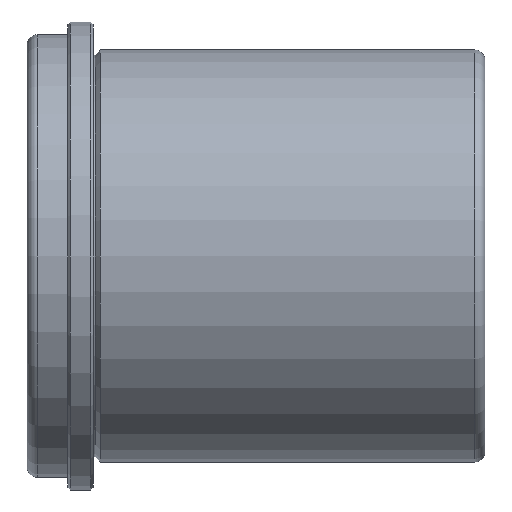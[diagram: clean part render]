
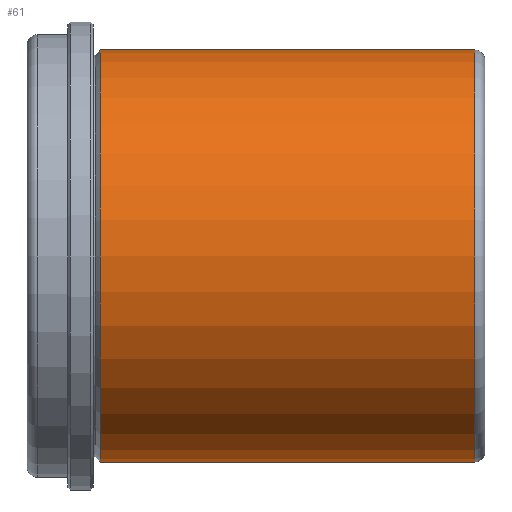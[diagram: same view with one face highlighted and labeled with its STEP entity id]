
A CAD part, front view. The second image highlights one B-rep face of the part: STEP entity #61.
In plain terms, the highlighted cylindrical face has radius 40.5 mm (diameter 81 mm), a full revolution.
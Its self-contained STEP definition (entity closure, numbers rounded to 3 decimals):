
#61 = ADVANCED_FACE( '', ( #134, #135, #136 ), #137, .T. );
#134 = FACE_OUTER_BOUND( '', #219, .T. );
#135 = FACE_BOUND( '', #220, .T. );
#136 = FACE_OUTER_BOUND( '', #221, .T. );
#137 = CYLINDRICAL_SURFACE( '', #222, 40.5 );
#219 = EDGE_LOOP( '', ( #316 ) );
#220 = EDGE_LOOP( '', ( #317 ) );
#221 = EDGE_LOOP( '', ( #318 ) );
#222 = AXIS2_PLACEMENT_3D( '', #319, #320, #321 );
#316 = ORIENTED_EDGE( '', *, *, #400, .T. );
#317 = ORIENTED_EDGE( '', *, *, #393, .T. );
#318 = ORIENTED_EDGE( '', *, *, #401, .F. );
#319 = CARTESIAN_POINT( '', ( 77., 0., 0. ) );
#320 = DIRECTION( '', ( -1., 0., 0. ) );
#321 = DIRECTION( '', ( 0., 0., -1. ) );
#393 = EDGE_CURVE( '', #442, #442, #443, .T. );
#400 = EDGE_CURVE( '', #452, #452, #453, .T. );
#401 = EDGE_CURVE( '', #454, #454, #455, .T. );
#442 = VERTEX_POINT( '', #566 );
#443 = B_SPLINE_CURVE_WITH_KNOTS( '', 3, ( #567, #568, #569, #570, #571, #572, #573, #574, #575, #576, #577, #578, #579, #580, #581, #582, #583, #584, #585, #586, #587, #588, #589, #590, #591, #592, #593, #594, #595, #596, #597, #598, #599, #600, #601, #602, #603, #604, #605, #606, #607, #608, #609, #610, #611, #612, #613, #614, #615, #616, #617, #618, #619, #620, #621, #622, #623, #624, #625, #626, #627, #628, #629, #630, #631, #632 ), .UNSPECIFIED., .T., .F., ( 2, 2, 2, 2, 2, 2, 2, 2, 2, 2, 2, 2, 2, 2, 2, 2, 2, 2, 2, 2, 2, 2, 2, 2, 2, 2, 2, 2, 2, 2, 2, 2, 2, 2, 2 ), ( -0.001, 0., 0.001, 0.002, 0.002, 0.003, 0.004, 0.005, 0.005, 0.006, 0.007, 0.008, 0.009, 0.009, 0.01, 0.011, 0.012, 0.013, 0.013, 0.014, 0.015, 0.016, 0.016, 0.017, 0.018, 0.019, 0.02, 0.02, 0.021, 0.022, 0.023, 0.023, 0.024, 0.025, 0.026 ), .UNSPECIFIED. );
#452 = VERTEX_POINT( '', #641 );
#453 = CIRCLE( '', #642, 40.5 );
#454 = VERTEX_POINT( '', #643 );
#455 = CIRCLE( '', #644, 40.5 );
#566 = CARTESIAN_POINT( '', ( 19., 40.302, -4. ) );
#567 = CARTESIAN_POINT( '', ( 18.736, 40.302, -4. ) );
#568 = CARTESIAN_POINT( '', ( 19.264, 40.302, -4. ) );
#569 = CARTESIAN_POINT( '', ( 19.524, 40.305, -3.974 ) );
#570 = CARTESIAN_POINT( '', ( 20.036, 40.314, -3.872 ) );
#571 = CARTESIAN_POINT( '', ( 20.29, 40.322, -3.795 ) );
#572 = CARTESIAN_POINT( '', ( 20.774, 40.34, -3.595 ) );
#573 = CARTESIAN_POINT( '', ( 21.004, 40.351, -3.472 ) );
#574 = CARTESIAN_POINT( '', ( 21.439, 40.375, -3.181 ) );
#575 = CARTESIAN_POINT( '', ( 21.644, 40.388, -3.013 ) );
#576 = CARTESIAN_POINT( '', ( 22.013, 40.414, -2.644 ) );
#577 = CARTESIAN_POINT( '', ( 22.179, 40.427, -2.442 ) );
#578 = CARTESIAN_POINT( '', ( 22.471, 40.451, -2.005 ) );
#579 = CARTESIAN_POINT( '', ( 22.595, 40.462, -1.773 ) );
#580 = CARTESIAN_POINT( '', ( 22.795, 40.48, -1.291 ) );
#581 = CARTESIAN_POINT( '', ( 22.872, 40.487, -1.039 ) );
#582 = CARTESIAN_POINT( '', ( 22.974, 40.497, -0.523 ) );
#583 = CARTESIAN_POINT( '', ( 23., 40.5, -0.263 ) );
#584 = CARTESIAN_POINT( '', ( 23., 40.5, 0.259 ) );
#585 = CARTESIAN_POINT( '', ( 22.974, 40.497, 0.524 ) );
#586 = CARTESIAN_POINT( '', ( 22.872, 40.488, 1.037 ) );
#587 = CARTESIAN_POINT( '', ( 22.797, 40.48, 1.287 ) );
#588 = CARTESIAN_POINT( '', ( 22.596, 40.462, 1.771 ) );
#589 = CARTESIAN_POINT( '', ( 22.471, 40.451, 2.005 ) );
#590 = CARTESIAN_POINT( '', ( 22.182, 40.427, 2.438 ) );
#591 = CARTESIAN_POINT( '', ( 22.016, 40.414, 2.64 ) );
#592 = CARTESIAN_POINT( '', ( 21.643, 40.388, 3.014 ) );
#593 = CARTESIAN_POINT( '', ( 21.441, 40.375, 3.179 ) );
#594 = CARTESIAN_POINT( '', ( 21.008, 40.351, 3.469 ) );
#595 = CARTESIAN_POINT( '', ( 20.774, 40.34, 3.595 ) );
#596 = CARTESIAN_POINT( '', ( 20.29, 40.322, 3.795 ) );
#597 = CARTESIAN_POINT( '', ( 20.041, 40.315, 3.871 ) );
#598 = CARTESIAN_POINT( '', ( 19.528, 40.305, 3.974 ) );
#599 = CARTESIAN_POINT( '', ( 19.263, 40.302, 4. ) );
#600 = CARTESIAN_POINT( '', ( 18.74, 40.302, 4. ) );
#601 = CARTESIAN_POINT( '', ( 18.481, 40.305, 3.975 ) );
#602 = CARTESIAN_POINT( '', ( 17.965, 40.314, 3.873 ) );
#603 = CARTESIAN_POINT( '', ( 17.712, 40.322, 3.796 ) );
#604 = CARTESIAN_POINT( '', ( 17.23, 40.34, 3.597 ) );
#605 = CARTESIAN_POINT( '', ( 16.998, 40.351, 3.473 ) );
#606 = CARTESIAN_POINT( '', ( 16.56, 40.375, 3.181 ) );
#607 = CARTESIAN_POINT( '', ( 16.359, 40.388, 3.015 ) );
#608 = CARTESIAN_POINT( '', ( 15.99, 40.414, 2.647 ) );
#609 = CARTESIAN_POINT( '', ( 15.821, 40.427, 2.441 ) );
#610 = CARTESIAN_POINT( '', ( 15.53, 40.451, 2.007 ) );
#611 = CARTESIAN_POINT( '', ( 15.407, 40.462, 1.777 ) );
#612 = CARTESIAN_POINT( '', ( 15.206, 40.48, 1.293 ) );
#613 = CARTESIAN_POINT( '', ( 15.129, 40.487, 1.039 ) );
#614 = CARTESIAN_POINT( '', ( 15.026, 40.497, 0.528 ) );
#615 = CARTESIAN_POINT( '', ( 15., 40.5, 0.268 ) );
#616 = CARTESIAN_POINT( '', ( 15., 40.5, -0.26 ) );
#617 = CARTESIAN_POINT( '', ( 15.025, 40.497, -0.521 ) );
#618 = CARTESIAN_POINT( '', ( 15.127, 40.488, -1.032 ) );
#619 = CARTESIAN_POINT( '', ( 15.203, 40.48, -1.286 ) );
#620 = CARTESIAN_POINT( '', ( 15.404, 40.462, -1.771 ) );
#621 = CARTESIAN_POINT( '', ( 15.527, 40.451, -2.001 ) );
#622 = CARTESIAN_POINT( '', ( 15.816, 40.427, -2.436 ) );
#623 = CARTESIAN_POINT( '', ( 15.985, 40.414, -2.642 ) );
#624 = CARTESIAN_POINT( '', ( 16.354, 40.388, -3.011 ) );
#625 = CARTESIAN_POINT( '', ( 16.555, 40.376, -3.176 ) );
#626 = CARTESIAN_POINT( '', ( 16.991, 40.351, -3.469 ) );
#627 = CARTESIAN_POINT( '', ( 17.224, 40.34, -3.594 ) );
#628 = CARTESIAN_POINT( '', ( 17.705, 40.322, -3.794 ) );
#629 = CARTESIAN_POINT( '', ( 17.957, 40.315, -3.871 ) );
#630 = CARTESIAN_POINT( '', ( 18.474, 40.305, -3.974 ) );
#631 = CARTESIAN_POINT( '', ( 18.736, 40.302, -4. ) );
#632 = CARTESIAN_POINT( '', ( 19.264, 40.302, -4. ) );
#641 = CARTESIAN_POINT( '', ( 1.414, 0., -40.5 ) );
#642 = AXIS2_PLACEMENT_3D( '', #697, #698, #699 );
#643 = CARTESIAN_POINT( '', ( 75., 0., -40.5 ) );
#644 = AXIS2_PLACEMENT_3D( '', #700, #701, #702 );
#697 = CARTESIAN_POINT( '', ( 1.414, 0., 0. ) );
#698 = DIRECTION( '', ( 1., 0., 0. ) );
#699 = DIRECTION( '', ( 0., 0., -1. ) );
#700 = CARTESIAN_POINT( '', ( 75., 0., 0. ) );
#701 = DIRECTION( '', ( 1., 0., 0. ) );
#702 = DIRECTION( '', ( 0., 0., -1. ) );
